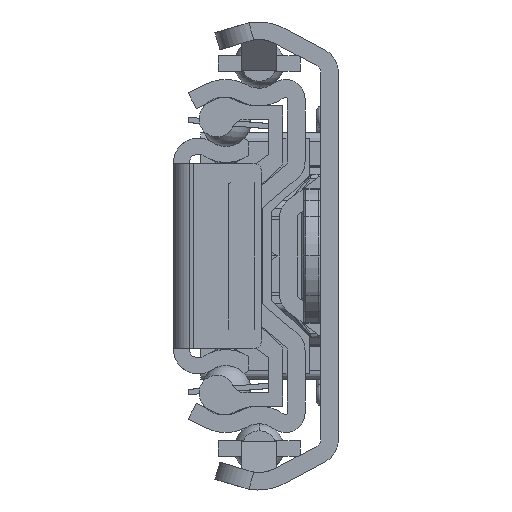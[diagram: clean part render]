
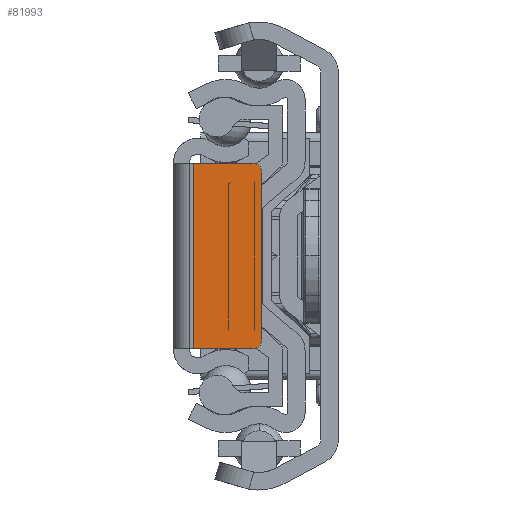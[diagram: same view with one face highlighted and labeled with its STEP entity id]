
A CAD part, left-side view. The second image highlights one B-rep face of the part: STEP entity #81993.
In plain terms, the highlighted planar face has unit normal (-1, 0, 0).
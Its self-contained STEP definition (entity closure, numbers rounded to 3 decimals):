
#75593=DIRECTION('',(0.,-1.,0.));
#75594=VECTOR('',#75593,6.7);
#75595=CARTESIAN_POINT('',(0.,-2.3,10.5));
#75596=LINE('',#75595,#75594);
#76730=DIRECTION('',(0.,-1.,0.));
#76731=VECTOR('',#76730,6.7);
#76732=CARTESIAN_POINT('',(0.,-2.3,-10.5));
#76733=LINE('',#76732,#76731);
#76734=CARTESIAN_POINT('',(0.,-9.,9.5));
#76735=DIRECTION('',(-1.,0.,0.));
#76736=DIRECTION('',(0.,-1.,0.));
#76737=AXIS2_PLACEMENT_3D('',#76734,#76735,#76736);
#76739=CARTESIAN_POINT('',(0.,-9.,-9.5));
#76740=DIRECTION('',(-1.,0.,0.));
#76741=DIRECTION('',(0.,0.,-1.));
#76742=AXIS2_PLACEMENT_3D('',#76739,#76740,#76741);
#76744=DIRECTION('',(0.,0.,1.));
#76745=VECTOR('',#76744,21.);
#76746=CARTESIAN_POINT('',(0.,-2.3,-10.5));
#76747=LINE('',#76746,#76745);
#76756=DIRECTION('',(0.,0.,1.));
#76757=VECTOR('',#76756,19.);
#76758=CARTESIAN_POINT('',(0.,-10.,-9.5));
#76759=LINE('',#76758,#76757);
#79907=CARTESIAN_POINT('',(0.,-2.3,-10.5));
#79908=CARTESIAN_POINT('',(0.,-2.3,10.5));
#79909=VERTEX_POINT('',#79907);
#79910=VERTEX_POINT('',#79908);
#79932=CARTESIAN_POINT('',(0.,-10.,9.5));
#79933=VERTEX_POINT('',#79932);
#79934=CARTESIAN_POINT('',(0.,-9.,10.5));
#79935=VERTEX_POINT('',#79934);
#79936=CARTESIAN_POINT('',(0.,-9.,-10.5));
#79937=CARTESIAN_POINT('',(0.,-10.,-9.5));
#79938=VERTEX_POINT('',#79936);
#79939=VERTEX_POINT('',#79937);
#81978=CARTESIAN_POINT('',(0.,-2.3,-10.5));
#81979=DIRECTION('',(-1.,0.,0.));
#81980=DIRECTION('',(0.,-1.,0.));
#81981=AXIS2_PLACEMENT_3D('',#81978,#81979,#81980);
#81982=PLANE('',#81981);
#81983=ORIENTED_EDGE('',*,*,#81039,.F.);
#81985=ORIENTED_EDGE('',*,*,#81984,.F.);
#81986=ORIENTED_EDGE('',*,*,#81969,.F.);
#81987=ORIENTED_EDGE('',*,*,#81959,.F.);
#81989=ORIENTED_EDGE('',*,*,#81988,.T.);
#81990=ORIENTED_EDGE('',*,*,#81016,.T.);
#81991=EDGE_LOOP('',(#81983,#81985,#81986,#81987,#81989,#81990));
#81992=FACE_OUTER_BOUND('',#81991,.F.);
#76738=CIRCLE('',#76737,1.);
#76743=CIRCLE('',#76742,1.);
#81016=EDGE_CURVE('',#79910,#79935,#75596,.T.);
#81039=EDGE_CURVE('',#79933,#79935,#76738,.T.);
#81959=EDGE_CURVE('',#79909,#79938,#76733,.T.);
#81969=EDGE_CURVE('',#79938,#79939,#76743,.T.);
#81984=EDGE_CURVE('',#79939,#79933,#76759,.T.);
#81988=EDGE_CURVE('',#79909,#79910,#76747,.T.);
#81993=ADVANCED_FACE('',(#81992),#81982,.T.);
